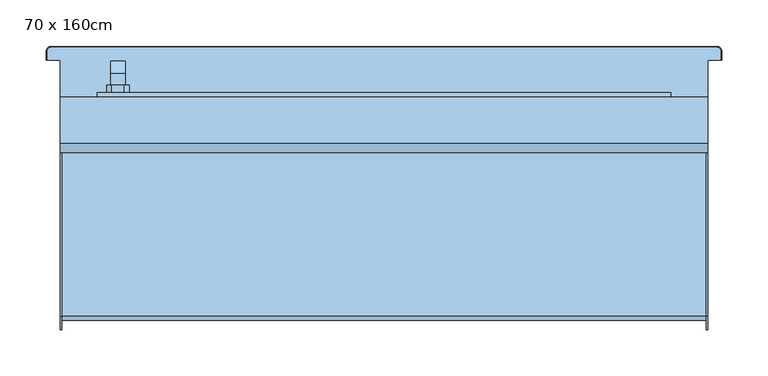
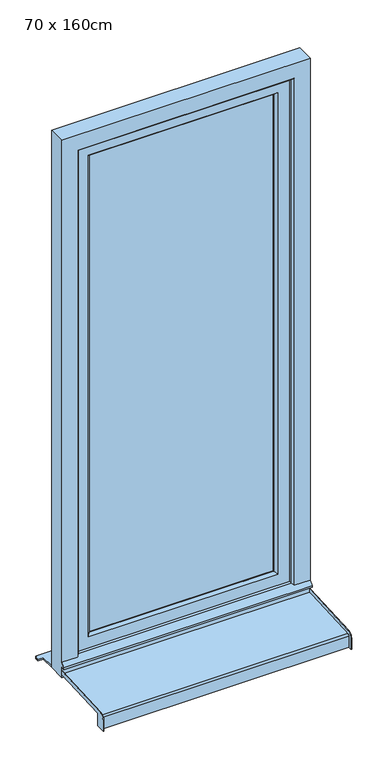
"""IFC4 building model written with IfcOpenShell, lengths in millimetres: window geometry, Fenêtre type 1 : 70 x 160cm."""

from ifc_helpers import new_model, si_unit, frame, origin, place, context, project, spatial, polyline, circle_curve, outline, extrude, faceted_brep, source, transform, mapped, element, save
from ifc_brep_helpers import plane_surface, cylinder_surface, revolved_surface, advanced_brep


def window_70_x_160cm_368b7dc1(model_context):
    return source(origin(), model_context, "Body", "SolidModel", [
        faceted_brep([(-295.5, 98.0, 1306.0), (-295.5, 98.0, 1294.0), (-279.5, 98.0, 1294.0), (-279.5, 98.0, 1306.0), (-279.5, 110.4852814, 1306.0), (-295.5, 110.4852814, 1306.0), (-279.5, 105.5147186, 1294.0), (-279.5, 112.0, 1287.5147186), (-279.5, 112.0, 1287.2282668), (-279.5, 114.7580139, 1208.5355339), (-279.5, 124.0, 1208.5355339), (-279.5, 124.0, 1292.4852814), (-295.5, 105.5147186, 1294.0), (-295.5, 124.0, 1292.4852814), (-295.5, 124.0, 1208.5355339), (-295.5, 114.7580139, 1208.5355339), (-295.5, 112.0099909, 1287.2286157), (-295.5, 112.0, 1287.5147186), (-283.0355339, 124.0, 1205.0), (-283.0355339, 114.8814775, 1205.0), (-291.9644661, 114.8814775, 1205.0), (-291.9644661, 124.0, 1205.0)], [[[0, 1, 2, 3]], [[3, 4, 5, 0]], [[2, 6, 7, 8, 9, 10, 11, 4, 3]], [[1, 12, 6, 2]], [[0, 5, 13, 14, 15, 16, 17, 12, 1]], [[4, 11, 13, 5]], [[6, 12, 17, 7]], [[18, 19, 20, 21]], [[11, 10, 18, 21, 14, 13]], [[17, 16, 8, 7]], [[16, 15, 20, 19, 9, 8]], [[9, 19, 18, 10]], [[14, 21, 20, 15]]]),
        extrude(outline(polyline([(1330.0, -294.5), (1325.0, -299.5), (1275.0, -299.5), (1270.0, -294.5), (1270.0, -280.5), (1275.0, -275.5), (1325.0, -275.5), (1330.0, -280.5), (1330.0, -294.5)])), frame((0.0, 90.0, 0.0), z_axis=(0.0, 1.0, 0.0), x_axis=(0.0, 0.0, 1.0)), (0.0, 0.0, 1.0), 8.0),
        advanced_brep(
        [(-350.0, -140.0, 762.0), (-350.0, -166.5, 762.0), (-350.0, -166.5, 795.1063906), (-350.0, -152.2850393, 810.0858337), (-350.0, 35.0, 819.9010267), (-350.0, 35.0, 808.3852447), (-350.0, -140.0, 799.2138833), (350.0, -140.0, 799.2138833), (350.0, 35.0, 808.3852447), (350.0, 35.0, 819.9010267), (350.0, -152.2850393, 810.0858337), (350.0, -166.5, 795.1063906), (350.0, -166.5, 762.0), (350.0, -140.0, 762.0), (-348.0, 35.0, 819.9010267), (-348.0, 35.0, 809.8873032), (348.0, 35.0, 809.8873032), (348.0, 35.0, 819.9010267), (-348.0, -151.7616798, 800.0995383), (348.0, -151.7616798, 800.0995383), (348.0, -156.5, 795.1063906), (-348.0, -156.5, 795.1063906), (-348.0, -156.5, 762.0), (348.0, -156.5, 762.0), (-348.0, -155.0, 762.0), (348.0, -155.0, 762.0), (348.0, -140.0, 762.0), (348.0, -166.5, 762.0), (-348.0, -166.5, 762.0), (-348.0, -140.0, 762.0), (-348.0, -145.0, 772.0), (348.0, -145.0, 772.0), (-348.0, -146.0606602, 773.0606602), (348.0, -146.0606602, 773.0606602), (-348.0, -155.0, 764.1213203), (348.0, -155.0, 764.1213203), (-348.0, -155.0, 795.0728058), (348.0, -155.0, 795.0728058), (-348.0, -140.0, 799.2138833), (348.0, -140.0, 799.2138833), (348.0, -151.649637, 798.6033517), (-348.0, -151.649637, 798.6033517), (348.0, -166.5, 795.1063906), (348.0, -152.2850393, 810.0858337), (-348.0, -152.2850393, 810.0858337), (-348.0, -166.5, 795.1063906)],
        [
            (0, 1),
            (1, 2),
            (2, 3, circle_curve(frame((-350.0, -151.5, 795.1063906), z_axis=(-1.0, 0.0, 0.0), x_axis=(0.0, -0.05233595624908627, 0.998629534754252)), 15.0)),
            (3, 4),
            (4, 5),
            (5, 6),
            (6, 0),
            (7, 8),
            (8, 9),
            (9, 10),
            (10, 11, circle_curve(frame((350.0, -151.5, 795.1063906), z_axis=(1.0, 0.0, 0.0), x_axis=(0.0, -1.0, 0.0)), 15.0)),
            (11, 12),
            (12, 13),
            (13, 7),
            (14, 15),
            (15, 16),
            (16, 17),
            (17, 9),
            (8, 5),
            (4, 14),
            (18, 19),
            (19, 16),
            (15, 18),
            (20, 21),
            (21, 22),
            (22, 23),
            (23, 20),
            (24, 25),
            (25, 26),
            (26, 13),
            (12, 27),
            (27, 23),
            (22, 28),
            (28, 1),
            (0, 29),
            (29, 24),
            (30, 31),
            (31, 25),
            (24, 30),
            (32, 33),
            (33, 31),
            (30, 32),
            (34, 35),
            (35, 33),
            (32, 34),
            (36, 37),
            (37, 35),
            (34, 36),
            (38, 6),
            (7, 39),
            (39, 40),
            (40, 41),
            (41, 38),
            (41, 36, circle_curve(frame((-348.0, -151.4646089, 795.0728058), z_axis=(1.0, 0.0, 0.0), x_axis=(0.0, 1.0, 0.0)), 3.5353911)),
            (29, 38),
            (37, 40, circle_curve(frame((348.0, -151.4646089, 795.0728058), z_axis=(-1.0, 0.0, 0.0), x_axis=(0.0, 1.0, 0.0)), 3.5353911)),
            (39, 26),
            (18, 21, circle_curve(frame((-348.0, -151.5, 795.1063906), z_axis=(1.0, 0.0, 0.0), x_axis=(0.0, 1.0, 0.0)), 5.0)),
            (20, 19, circle_curve(frame((348.0, -151.5, 795.1063906), z_axis=(-1.0, 0.0, 0.0), x_axis=(0.0, 1.0, 0.0)), 5.0)),
            (27, 42),
            (42, 43, circle_curve(frame((348.0, -151.5, 795.1063906), z_axis=(-1.0, 0.0, 0.0), x_axis=(0.0, -1.0, 0.0)), 15.0)),
            (43, 17),
            (11, 42),
            (10, 43),
            (14, 44),
            (44, 45, circle_curve(frame((-348.0, -151.5, 795.1063906), z_axis=(1.0, 0.0, 0.0), x_axis=(0.0, -0.05233595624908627, 0.998629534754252)), 15.0)),
            (45, 28),
            (3, 44),
            (2, 45),
        ],
        [
            plane_surface(frame((-350.0, 35.0, 808.3852447), z_axis=(-1.0, 0.0, 0.0), x_axis=(0.0, 0.0, 1.0))),
            plane_surface(frame((350.0, 35.0, 808.3852447), z_axis=(1.0, 0.0, 0.0), x_axis=(0.0, 0.0, -1.0))),
            plane_surface(frame((-350.0, 35.0, 808.3852447), z_axis=(0.0, 1.0, 0.0), x_axis=(1.0, 0.0, 0.0))),
            plane_surface(frame((-350.0, 35.0, 809.8873032), z_axis=(0.0, -0.05233595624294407, 0.9986295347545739), x_axis=(1.0, 0.0, 0.0))),
            plane_surface(frame((-350.0, -156.5, 795.1063906), z_axis=(0.0, -1.0, 0.0), x_axis=(1.0, 0.0, 0.0))),
            plane_surface(frame((-350.0, -156.5, 762.0), z_axis=(0.0, 0.0, -1.0), x_axis=(1.0, 0.0, 0.0))),
            plane_surface(frame((-350.0, -155.0, 762.0), z_axis=(0.0, 0.707106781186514, -0.7071067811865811), x_axis=(1.0, 0.0, 0.0))),
            plane_surface(frame((-350.0, -145.0, 772.0), z_axis=(0.0, 0.7071067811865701, 0.707106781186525), x_axis=(1.0, 0.0, 0.0))),
            plane_surface(frame((-350.0, -146.0606602, 773.0606602), z_axis=(0.0, -0.7071067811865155, 0.7071067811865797), x_axis=(1.0, 0.0, 0.0))),
            plane_surface(frame((-350.0, -155.0, 764.1213203), z_axis=(0.0, 1.0, 0.0), x_axis=(1.0, 0.0, 0.0))),
            plane_surface(frame((-350.0, -151.649637, 798.6033517), z_axis=(0.0, 0.05233595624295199, -0.9986295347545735), x_axis=(1.0, 0.0, 0.0))),
            plane_surface(frame((-348.0, -155.0, 798.4277666), z_axis=(1.0, 0.0, 0.0), x_axis=(0.0, 0.9986295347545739, 0.05233595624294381))),
            plane_surface(frame((-350.0, -140.0, 762.0), z_axis=(0.0, 1.0, 0.0), x_axis=(1.0, 0.0, 0.0))),
            plane_surface(frame((348.0, -155.0, 798.4277666), z_axis=(-1.0, 0.0, 0.0), x_axis=(0.0, 0.0, -1.0))),
            plane_surface(frame((348.0, -140.0, 762.0), z_axis=(0.0, 1.0, 0.0), x_axis=(1.0, 0.0, 0.0))),
            cylinder_surface(frame((350.0, -151.5, 795.1063906), z_axis=(-1.0, 0.0, 0.0), x_axis=(0.0, 1.0, 0.0)), 5.0),
            revolved_surface(polyline([(348.0, -147.9292178, 795.0728058), (-348.0, -147.9292178, 795.0728058)]), (350.0, -151.4646089, 795.0728058), (1.0, 0.0, 0.0)),
            plane_surface(frame((348.0, -156.5, 762.0), z_axis=(-1.0, 0.0, 0.0), x_axis=(0.0, 0.0, 1.0))),
            plane_surface(frame((348.0, -166.5, 762.0), z_axis=(0.0, -1.0, 0.0), x_axis=(0.0, 0.0, 1.0))),
            cylinder_surface(frame((350.0, -151.5, 795.1063906), z_axis=(1.0, 0.0, 0.0), x_axis=(0.0, -1.0, 0.0)), 15.0),
            plane_surface(frame((348.0, -152.2850393, 810.0858337), z_axis=(0.0, -0.052335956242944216, 0.9986295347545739), x_axis=(0.0, 0.9986295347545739, 0.052335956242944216))),
            plane_surface(frame((-348.0, 35.0, 819.9010267), z_axis=(1.0, 0.0, 0.0), x_axis=(0.0, 0.9986295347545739, 0.05233595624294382))),
            plane_surface(frame((-350.0, 35.0, 819.9010267), z_axis=(0.0, -0.05233595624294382, 0.9986295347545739), x_axis=(1.0, 0.0, 0.0))),
            cylinder_surface(frame((-350.0, -151.5, 795.1063906), z_axis=(-1.0, 0.0, 0.0), x_axis=(0.0, -0.05233595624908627, 0.998629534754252)), 15.0),
            plane_surface(frame((-348.0, -166.5, 795.1063906), z_axis=(0.0, -1.0, 0.0), x_axis=(0.0, 0.0, -1.0))),
        ],
        [
            (0, [[1, 2, 3, 4, 5, 6, 7]]),
            (1, [[8, 9, 10, 11, 12, 13, 14]]),
            (2, [[15, 16, 17, 18, -9, 19, -5, 20]]),
            (3, [[21, 22, -16, 23]]),
            (4, [[24, 25, 26, 27]]),
            (5, [[28, 29, 30, -13, 31, 32, -26, 33, 34, -1, 35, 36]]),
            (6, [[37, 38, -28, 39]]),
            (7, [[40, 41, -37, 42]]),
            (8, [[43, 44, -40, 45]]),
            (9, [[46, 47, -43, 48]]),
            (10, [[49, -6, -19, -8, 50, 51, 52, 53]]),
            (11, [[-53, 54, -48, -45, -42, -39, -36, 55]]),
            (12, [[-35, -7, -49, -55]]),
            (13, [[-38, -41, -44, -47, 56, -51, 57, -29]]),
            (14, [[-50, -14, -30, -57]]),
            (15, [[-21, 58, -24, 59]]),
            (16, [[-52, -56, -46, -54]]),
            (17, [[60, 61, 62, -17, -22, -59, -27, -32]]),
            (18, [[-12, 63, -60, -31]]),
            (19, [[64, -61, -63, -11]]),
            (20, [[-10, -18, -62, -64]]),
            (21, [[65, 66, 67, -33, -25, -58, -23, -15]]),
            (22, [[68, -65, -20, -4]]),
            (23, [[69, -66, -68, -3]]),
            (24, [[-34, -67, -69, -2]]),
        ],
    ),
        extrude(outline(polyline([(-260.0, 80.0), (260.0, 80.0), (260.0, 60.0), (-260.0, 60.0), (-260.0, 80.0)])), frame((0.0, 0.0, 890.0), z_axis=(0.0, 0.0, 1.0), x_axis=(1.0, 0.0, 0.0)), (0.0, 0.0, 1.0), 1420.0),
        faceted_brep([(-310.0, 90.0, 840.0), (310.0, 90.0, 840.0), (310.0, 50.0, 840.0), (-310.0, 50.0, 840.0), (310.0, 90.0, 2360.0), (310.0, 50.0, 2360.0), (-310.0, 50.0, 2360.0), (267.0710678, 50.0, 2317.0710678), (267.0710678, 50.0, 882.9289322), (-267.0710678, 50.0, 882.9289322), (-267.0710678, 50.0, 2317.0710678), (-310.0, 90.0, 2360.0), (267.0710678, 90.0, 882.9289322), (267.0710678, 90.0, 2317.0710678), (-267.0710678, 90.0, 2317.0710678), (-267.0710678, 90.0, 882.9289322), (-260.0, 82.9289322, 890.0), (260.0, 82.9289322, 890.0), (260.0, 82.9289322, 2310.0), (260.0, 57.0710678, 890.0), (260.0, 57.0710678, 2310.0), (-260.0, 57.0710678, 890.0), (-260.0, 82.9289322, 2310.0), (-260.0, 57.0710678, 2310.0)], [[[0, 1, 2, 3]], [[1, 4, 5, 2]], [[2, 5, 6, 3], [7, 8, 9, 10]], [[4, 1, 0, 11], [12, 13, 14, 15]], [[16, 17, 12, 15]], [[17, 18, 13, 12]], [[19, 20, 18, 17]], [[9, 8, 19, 21]], [[8, 7, 20, 19]], [[11, 0, 3, 6]], [[22, 16, 15, 14]], [[23, 21, 16, 22]], [[10, 9, 21, 23]], [[21, 19, 17, 16]], [[4, 11, 6, 5]], [[18, 22, 14, 13]], [[7, 10, 23, 20]], [[20, 23, 22, 18]]]),
        faceted_brep([(350.0, 35.0, 800.0), (350.0, 85.0, 800.0), (350.0, 85.0, 2400.0), (350.0, 35.0, 2400.0), (350.0, 35.0, 845.0), (350.0, 25.0, 835.0), (350.0, 25.0, 830.0), (350.0, 35.0, 830.0), (-350.0, 35.0, 830.0), (-350.0, 35.0, 800.0), (-350.0, 25.0, 830.0), (-350.0, 25.0, 835.0), (305.0, 35.0, 845.0), (300.0, 40.0, 850.0), (-300.0, 40.0, 850.0), (-305.0, 35.0, 845.0), (-350.0, 35.0, 845.0), (-350.0, 35.0, 2400.0), (-305.0, 35.0, 2355.0), (305.0, 35.0, 2355.0), (-350.0, 85.0, 800.0), (-350.0, 85.0, 2400.0), (310.0, 85.0, 840.0), (310.0, 85.0, 2360.0), (-310.0, 85.0, 2360.0), (-310.0, 85.0, 840.0), (-310.0, 50.0, 840.0), (310.0, 50.0, 840.0), (-310.0, 50.0, 2360.0), (310.0, 50.0, 2360.0), (300.0, 50.0, 850.0), (300.0, 50.0, 2350.0), (-300.0, 50.0, 2350.0), (-300.0, 50.0, 850.0), (-300.0, 40.0, 2350.0), (300.0, 40.0, 2350.0)], [[[0, 1, 2, 3, 4, 5, 6, 7]], [[7, 8, 9, 0]], [[6, 10, 8, 7]], [[5, 11, 10, 6]], [[5, 4, 12, 13, 14, 15, 16, 11]], [[17, 16, 15, 18, 19, 12, 4, 3]], [[1, 20, 21, 2], [22, 23, 24, 25]], [[0, 9, 20, 1]], [[9, 8, 10, 11, 16, 17, 21, 20]], [[25, 26, 27, 22]], [[26, 25, 24, 28]], [[22, 27, 29, 23]], [[29, 27, 26, 28], [30, 31, 32, 33]], [[33, 14, 13, 30]], [[34, 14, 33, 32]], [[31, 30, 13, 35]], [[35, 13, 12, 19]], [[18, 15, 14, 34]], [[28, 24, 23, 29]], [[3, 2, 21, 17]], [[31, 35, 34, 32]], [[18, 34, 35, 19]]]),
        advanced_brep(
        [(350.0, 125.0, 805.0), (363.9971508, 125.0, 805.0), (363.9971508, 135.0, 805.0), (360.0, 138.9971508, 805.0), (-360.0, 138.9971508, 805.0), (-363.9971508, 135.0, 805.0), (-363.9971508, 125.0, 805.0), (-350.0, 125.0, 805.0), (-350.0, 85.0, 805.0), (350.0, 85.0, 805.0), (-350.0, 125.0, 800.0), (-363.9971508, 125.0, 800.0), (-363.9971508, 135.0, 800.0), (-360.0, 138.9971508, 800.0), (360.0, 138.9971508, 800.0), (363.9971508, 135.0, 800.0), (363.9971508, 125.0, 800.0), (350.0, 125.0, 800.0), (350.0, 85.0, 800.0), (-350.0, 85.0, 800.0), (-365.0, 135.0, 801.0028492), (-365.0, 125.0, 801.0028492), (-365.0, 125.0, 803.9971508), (-365.0, 135.0, 803.9971508), (365.0, 125.0, 801.0028492), (365.0, 125.0, 803.9971508), (365.0, 135.0, 801.0028492), (365.0, 135.0, 803.9971508), (360.0, 140.0, 801.0028492), (-360.0, 140.0, 801.0028492), (-360.0, 140.0, 803.9971508), (360.0, 140.0, 803.9971508)],
        [
            (0, 1),
            (1, 2),
            (2, 3, circle_curve(frame((360.0, 135.0, 805.0), z_axis=(0.0, 0.0, 1.0), x_axis=(0.0, 1.0, 0.0)), 3.9971508)),
            (3, 4),
            (4, 5, circle_curve(frame((-360.0, 135.0, 805.0), z_axis=(0.0, 0.0, 1.0), x_axis=(-1.0, 0.0, 0.0)), 3.9971508)),
            (5, 6),
            (6, 7),
            (7, 8),
            (8, 9),
            (9, 0),
            (10, 11),
            (11, 12),
            (12, 13, circle_curve(frame((-360.0, 135.0, 800.0), z_axis=(0.0, 0.0, -1.0), x_axis=(-1.0, 0.0, 0.0)), 3.9971508)),
            (13, 14),
            (14, 15, circle_curve(frame((360.0, 135.0, 800.0), z_axis=(0.0, 0.0, -1.0), x_axis=(0.0, 1.0, 0.0)), 3.9971508)),
            (15, 16),
            (16, 17),
            (17, 18),
            (18, 19),
            (19, 10),
            (20, 21),
            (21, 22),
            (22, 23),
            (23, 20),
            (6, 22),
            (21, 11),
            (10, 7),
            (19, 8),
            (18, 9),
            (17, 0),
            (16, 24),
            (24, 25),
            (25, 1),
            (24, 26),
            (26, 27),
            (27, 25),
            (28, 29),
            (29, 30),
            (30, 31),
            (31, 28),
            (31, 27, circle_curve(frame((360.0, 135.0, 803.9971508), z_axis=(0.0, 0.0, -1.0), x_axis=(0.0, 1.0, 0.0)), 5.0)),
            (26, 28, circle_curve(frame((360.0, 135.0, 801.0028492), z_axis=(0.0, 0.0, 1.0), x_axis=(0.0, 1.0, 0.0)), 5.0)),
            (23, 30, circle_curve(frame((-360.0, 135.0, 803.9971508), z_axis=(0.0, 0.0, -1.0), x_axis=(0.0, 1.0, 0.0)), 5.0)),
            (29, 20, circle_curve(frame((-360.0, 135.0, 801.0028492), z_axis=(0.0, 0.0, 1.0), x_axis=(0.0, 1.0, 0.0)), 5.0)),
            (5, 23),
            (20, 12),
            (4, 30),
            (29, 13),
            (3, 31),
            (28, 14),
            (2, 27),
            (26, 15),
        ],
        [
            plane_surface(frame((-365.0, 125.0, 805.0), z_axis=(0.0, 0.0, 1.0), x_axis=(0.0, 1.0, 0.0))),
            plane_surface(frame((-365.0, 125.0, 800.0), z_axis=(0.0, 0.0, -1.0), x_axis=(0.0, -1.0, 0.0))),
            plane_surface(frame((-365.0, 135.0, 800.0), z_axis=(-1.0, 0.0, 0.0), x_axis=(0.0, 0.0, 1.0))),
            plane_surface(frame((-365.0, 125.0, 800.0), z_axis=(0.0, -1.0, 0.0), x_axis=(0.0, 0.0, 1.0))),
            plane_surface(frame((-350.0, 125.0, 800.0), z_axis=(-1.0, 0.0, 0.0), x_axis=(0.0, 0.0, 1.0))),
            plane_surface(frame((-350.0, 85.0, 800.0), z_axis=(0.0, -1.0, 0.0), x_axis=(0.0, 0.0, 1.0))),
            plane_surface(frame((350.0, 85.0, 800.0), z_axis=(1.0, 0.0, 0.0), x_axis=(0.0, 0.0, 1.0))),
            plane_surface(frame((350.0, 125.0, 800.0), z_axis=(0.0, -1.0, 0.0), x_axis=(0.0, 0.0, 1.0))),
            plane_surface(frame((365.0, 125.0, 800.0), z_axis=(1.0, 0.0, 0.0), x_axis=(0.0, 0.0, 1.0))),
            plane_surface(frame((360.0, 140.0, 800.0), z_axis=(0.0, 1.0, 0.0), x_axis=(0.0, 0.0, 1.0))),
            cylinder_surface(frame((360.0, 135.0, 805.0), z_axis=(0.0, 0.0, -1.0), x_axis=(0.0, 1.0, 0.0)), 5.0),
            cylinder_surface(frame((-360.0, 135.0, 805.0), z_axis=(0.0, 0.0, -1.0), x_axis=(0.0, 1.0, 0.0)), 5.0),
            plane_surface(frame((-363.9971508, 125.0, 805.0), z_axis=(-0.7071067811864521, 0.0, 0.707106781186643), x_axis=(0.0, 1.0, 0.0))),
            plane_surface(frame((-365.0, 125.0, 801.0028492), z_axis=(-0.7071067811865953, 0.0, -0.7071067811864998), x_axis=(0.0, 1.0, 0.0))),
            revolved_surface(polyline([(-365.0, 135.0, 803.9971508), (-363.9971508, 135.0, 805.0)]), (-360.0, 135.0, 805.0), (0.0, 0.0, 1.0)),
            revolved_surface(polyline([(-363.9971508, 135.0, 800.0), (-365.0, 135.0, 801.0028492)]), (-360.0, 135.0, 805.0), (0.0, 0.0, 1.0)),
            plane_surface(frame((-360.0, 138.9971508, 805.0), z_axis=(0.0, 0.7071067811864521, 0.707106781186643), x_axis=(1.0, 0.0, 0.0))),
            plane_surface(frame((-360.0, 140.0, 801.0028492), z_axis=(0.0, 0.7071067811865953, -0.7071067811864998), x_axis=(1.0, 0.0, 0.0))),
            revolved_surface(polyline([(360.0, 140.0, 803.9971508), (360.0, 138.9971508, 805.0)]), (360.0, 135.0, 805.0), (0.0, 0.0, 1.0)),
            revolved_surface(polyline([(360.0, 138.9971508, 800.0), (360.0, 140.0, 801.0028492)]), (360.0, 135.0, 805.0), (0.0, 0.0, 1.0)),
            plane_surface(frame((363.9971508, 135.0, 805.0), z_axis=(0.7071067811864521, 0.0, 0.707106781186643), x_axis=(0.0, -1.0, 0.0))),
            plane_surface(frame((365.0, 135.0, 801.0028492), z_axis=(0.7071067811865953, 0.0, -0.7071067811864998), x_axis=(0.0, -1.0, 0.0))),
        ],
        [
            (0, [[1, 2, 3, 4, 5, 6, 7, 8, 9, 10]]),
            (1, [[11, 12, 13, 14, 15, 16, 17, 18, 19, 20]]),
            (2, [[21, 22, 23, 24]]),
            (3, [[-7, 25, -22, 26, -11, 27]]),
            (4, [[-27, -20, 28, -8]]),
            (5, [[-28, -19, 29, -9]]),
            (6, [[-29, -18, 30, -10]]),
            (7, [[-17, 31, 32, 33, -1, -30]]),
            (8, [[34, 35, 36, -32]]),
            (9, [[37, 38, 39, 40]]),
            (10, [[41, -35, 42, -40]]),
            (11, [[43, -38, 44, -24]]),
            (12, [[-23, -25, -6, 45]]),
            (13, [[-12, -26, -21, 46]]),
            (14, [[-5, 47, -43, -45]]),
            (15, [[-44, 48, -13, -46]]),
            (16, [[-4, 49, -39, -47]]),
            (17, [[-37, 50, -14, -48]]),
            (18, [[-3, 51, -41, -49]]),
            (19, [[-42, 52, -15, -50]]),
            (20, [[-2, -33, -36, -51]]),
            (21, [[-34, -31, -16, -52]]),
        ],
    ),
    ])


if __name__ == "__main__":
    model = new_model("IFC4")
    model_context = context("Model", 3, world=origin())
    ifc_project = project(units=[si_unit("LENGTHUNIT", "METRE", prefix="MILLI")], contexts=[model_context])
    site = spatial("IfcSite", under=ifc_project)
    building = spatial("IfcBuilding", under=site)
    placement = place(None, origin())
    window_70_x_160cm_shape = window_70_x_160cm_368b7dc1(model_context)
    element("IfcWindow", 1, ObjectType="Fenêtre type 1 : 70 x 160cm", at=placement, inside=building, context=model_context, shape_type="MappedRepresentation", body=[
        mapped(window_70_x_160cm_shape, transform((0.0, 0.0, 0.0), x_axis=(1.0, 0.0, 0.0), y_axis=(0.0, 1.0, 0.0), z_axis=(0.0, 0.0, 1.0))),
    ])
    save(model, "model.ifc")
